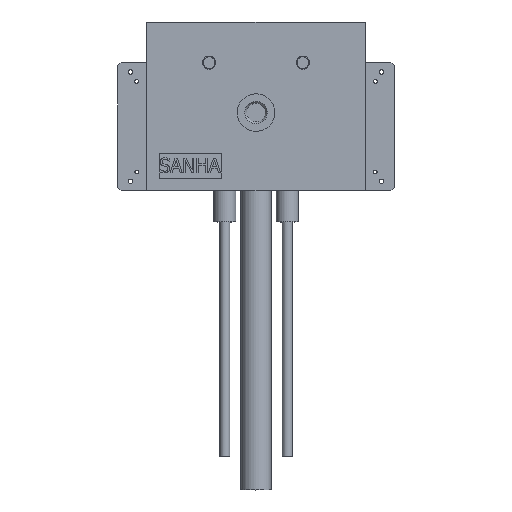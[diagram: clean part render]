
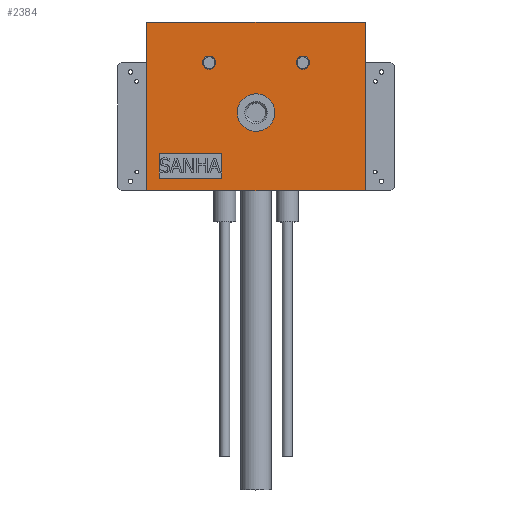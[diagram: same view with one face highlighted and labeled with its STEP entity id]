
A CAD part, top view. The second image highlights one B-rep face of the part: STEP entity #2384.
In plain terms, the highlighted planar face has unit normal (0, 0, 1) as drawn and (1, 0, 0) by its records, which use the part's own axes.
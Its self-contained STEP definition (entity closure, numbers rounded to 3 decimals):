
#155=FACE_BOUND('',#490,.T.);
#156=FACE_BOUND('',#491,.T.);
#157=FACE_BOUND('',#492,.T.);
#158=FACE_BOUND('',#493,.T.);
#186=CIRCLE('',#2650,10.5);
#189=CIRCLE('',#2655,10.5);
#193=CIRCLE('',#2665,27.5);
#339=FACE_OUTER_BOUND('',#489,.T.);
#489=EDGE_LOOP('',(#2025,#2026,#2027,#2028));
#490=EDGE_LOOP('',(#2029,#2030,#2031,#2032));
#491=EDGE_LOOP('',(#2033));
#492=EDGE_LOOP('',(#2034));
#493=EDGE_LOOP('',(#2035));
#546=LINE('',#3386,#775);
#551=LINE('',#3395,#780);
#554=LINE('',#3407,#783);
#720=LINE('',#4020,#949);
#723=LINE('',#4025,#952);
#725=LINE('',#4029,#954);
#727=LINE('',#4032,#956);
#738=LINE('',#4099,#967);
#775=VECTOR('',#2767,10.);
#780=VECTOR('',#2774,10.);
#783=VECTOR('',#2785,10.);
#949=VECTOR('',#3065,10.);
#952=VECTOR('',#3070,10.);
#954=VECTOR('',#3074,10.);
#956=VECTOR('',#3078,10.);
#967=VECTOR('',#3167,10.);
#1003=VERTEX_POINT('',#3382);
#1005=VERTEX_POINT('',#3385);
#1008=VERTEX_POINT('',#3393);
#1013=VERTEX_POINT('',#3405);
#1146=VERTEX_POINT('',#4018);
#1147=VERTEX_POINT('',#4019);
#1148=VERTEX_POINT('',#4024);
#1149=VERTEX_POINT('',#4028);
#1157=VERTEX_POINT('',#4061);
#1160=VERTEX_POINT('',#4070);
#1164=VERTEX_POINT('',#4087);
#1222=EDGE_CURVE('',#1005,#1003,#546,.T.);
#1227=EDGE_CURVE('',#1003,#1008,#551,.T.);
#1233=EDGE_CURVE('',#1008,#1013,#554,.T.);
#1431=EDGE_CURVE('',#1146,#1147,#720,.T.);
#1434=EDGE_CURVE('',#1148,#1146,#723,.T.);
#1436=EDGE_CURVE('',#1149,#1148,#725,.T.);
#1438=EDGE_CURVE('',#1147,#1149,#727,.T.);
#1451=EDGE_CURVE('',#1157,#1157,#186,.T.);
#1455=EDGE_CURVE('',#1160,#1160,#189,.T.);
#1461=EDGE_CURVE('',#1164,#1164,#193,.T.);
#1466=EDGE_CURVE('',#1013,#1005,#738,.T.);
#2025=ORIENTED_EDGE('',*,*,#1222,.T.);
#2026=ORIENTED_EDGE('',*,*,#1227,.T.);
#2027=ORIENTED_EDGE('',*,*,#1233,.T.);
#2028=ORIENTED_EDGE('',*,*,#1466,.T.);
#2029=ORIENTED_EDGE('',*,*,#1431,.T.);
#2030=ORIENTED_EDGE('',*,*,#1438,.T.);
#2031=ORIENTED_EDGE('',*,*,#1436,.T.);
#2032=ORIENTED_EDGE('',*,*,#1434,.T.);
#2033=ORIENTED_EDGE('',*,*,#1451,.T.);
#2034=ORIENTED_EDGE('',*,*,#1455,.T.);
#2035=ORIENTED_EDGE('',*,*,#1461,.T.);
#2265=PLANE('',#2672);
#2384=ADVANCED_FACE('',(#339,#155,#156,#157,#158),#2265,.T.);
#2650=AXIS2_PLACEMENT_3D('',#4063,#3118,#3119);
#2655=AXIS2_PLACEMENT_3D('',#4072,#3129,#3130);
#2665=AXIS2_PLACEMENT_3D('',#4088,#3151,#3152);
#2672=AXIS2_PLACEMENT_3D('',#4100,#3168,#3169);
#2767=DIRECTION('',(0.,-1.,0.));
#2774=DIRECTION('',(0.,0.,-1.));
#2785=DIRECTION('',(0.,1.,0.));
#3065=DIRECTION('',(0.,1.,0.));
#3070=DIRECTION('',(0.,0.,1.));
#3074=DIRECTION('',(0.,-1.,0.));
#3078=DIRECTION('',(0.,0.,-1.));
#3118=DIRECTION('center_axis',(-1.,0.,0.));
#3119=DIRECTION('ref_axis',(0.,0.,1.));
#3129=DIRECTION('center_axis',(-1.,0.,0.));
#3130=DIRECTION('ref_axis',(0.,0.,1.));
#3151=DIRECTION('center_axis',(-1.,0.,0.));
#3152=DIRECTION('ref_axis',(0.,0.,1.));
#3167=DIRECTION('',(0.,0.,1.));
#3168=DIRECTION('center_axis',(1.,0.,0.));
#3169=DIRECTION('ref_axis',(0.,0.,-1.));
#3382=CARTESIAN_POINT('',(70.,0.,0.));
#3385=CARTESIAN_POINT('',(70.,270.,0.));
#3386=CARTESIAN_POINT('',(70.,0.,0.));
#3393=CARTESIAN_POINT('',(70.,0.,-350.));
#3395=CARTESIAN_POINT('',(70.,0.,-350.));
#3405=CARTESIAN_POINT('',(70.,270.,-350.));
#3407=CARTESIAN_POINT('',(70.,270.,-350.));
#4018=CARTESIAN_POINT('',(70.,20.,-20.));
#4019=CARTESIAN_POINT('',(70.,60.,-20.));
#4020=CARTESIAN_POINT('',(70.,77.5,-20.));
#4024=CARTESIAN_POINT('',(70.,20.,-120.));
#4025=CARTESIAN_POINT('',(70.,20.,-147.5));
#4028=CARTESIAN_POINT('',(70.,60.,-120.));
#4029=CARTESIAN_POINT('',(70.,97.5,-120.));
#4032=CARTESIAN_POINT('',(70.,60.,-97.5));
#4061=CARTESIAN_POINT('',(70.,205.,-110.5));
#4063=CARTESIAN_POINT('Origin',(70.,205.,-100.));
#4070=CARTESIAN_POINT('',(70.,205.,-260.5));
#4072=CARTESIAN_POINT('Origin',(70.,205.,-250.));
#4087=CARTESIAN_POINT('',(70.,125.,-202.5));
#4088=CARTESIAN_POINT('Origin',(70.,125.,-175.));
#4099=CARTESIAN_POINT('',(70.,270.,0.));
#4100=CARTESIAN_POINT('Origin',(70.,135.,-175.));
